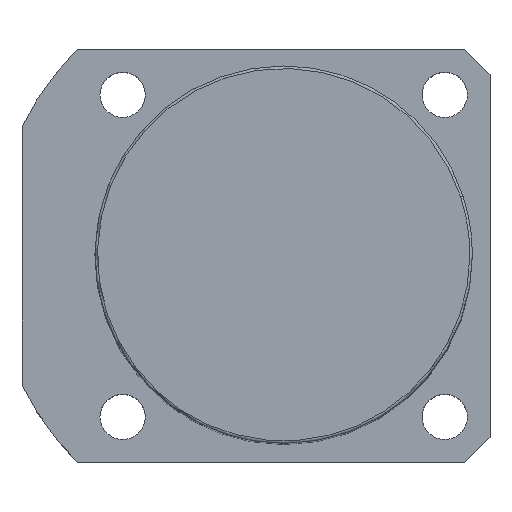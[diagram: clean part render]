
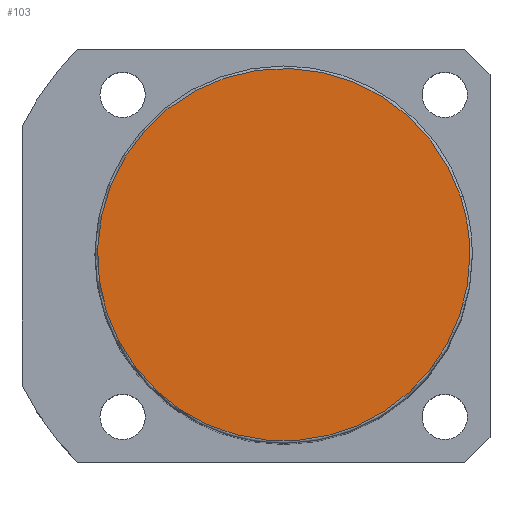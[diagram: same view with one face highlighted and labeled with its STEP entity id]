
A CAD part, top view. The second image highlights one B-rep face of the part: STEP entity #103.
In plain terms, the highlighted planar face has unit normal (0, 0, 1).
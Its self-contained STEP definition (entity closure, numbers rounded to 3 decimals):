
#16=CARTESIAN_POINT('',(-35.189,-11.434,153.0));
#17=VERTEX_POINT('',#16);
#54=CARTESIAN_POINT('',(35.189,11.434,153.0));
#55=VERTEX_POINT('',#54);
#63=CARTESIAN_POINT('',(37.0,0.0,153.0));
#64=VERTEX_POINT('',#63);
#65=CARTESIAN_POINT('',(0.0,0.0,153.0));
#66=DIRECTION('',(0.0,0.0,1.0));
#67=DIRECTION('',(1.0,0.0,0.0));
#68=AXIS2_PLACEMENT_3D('',#65,#66,#67);
#69=CIRCLE('',#68,37.0);
#70=EDGE_CURVE('no 898',#64,#55,#69,.T.);
#72=CARTESIAN_POINT('',(0.0,0.0,153.0));
#73=DIRECTION('',(0.0,0.0,1.0));
#74=DIRECTION('',(1.0,0.0,0.0));
#75=AXIS2_PLACEMENT_3D('',#72,#73,#74);
#76=CIRCLE('',#75,37.0);
#77=EDGE_CURVE('no 902',#17,#64,#76,.T.);
#87=ORIENTED_EDGE('',*,*,#70,.T.);
#88=CARTESIAN_POINT('',(0.0,0.0,153.0));
#89=DIRECTION('',(0.0,0.0,1.0));
#90=DIRECTION('',(1.0,0.0,0.0));
#91=AXIS2_PLACEMENT_3D('',#88,#89,#90);
#92=CIRCLE('',#91,37.0);
#93=EDGE_CURVE('no 911',#55,#17,#92,.T.);
#94=ORIENTED_EDGE('',*,*,#93,.T.);
#95=ORIENTED_EDGE('',*,*,#77,.T.);
#96=EDGE_LOOP('',(#87,#94,#95));
#97=FACE_OUTER_BOUND('',#96,.T.);
#98=CARTESIAN_POINT('',(0.0,0.0,153.0));
#99=DIRECTION('',(0.0,0.0,1.0));
#100=DIRECTION('',(1.0,0.0,0.0));
#101=AXIS2_PLACEMENT_3D('',#98,#99,#100);
#102=PLANE('',#101);
#103=ADVANCED_FACE('no 904',(#97),#102,.T.);
